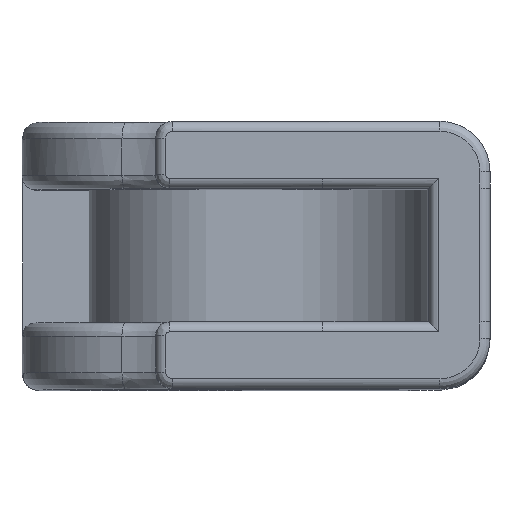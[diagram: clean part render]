
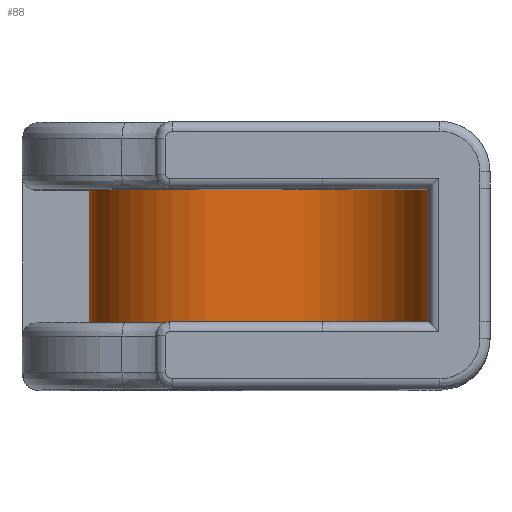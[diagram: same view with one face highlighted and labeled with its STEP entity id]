
A CAD part, top view. The second image highlights one B-rep face of the part: STEP entity #88.
In plain terms, the highlighted free-form (B-spline) face has degree [1, 2] with [2, 11] control points.
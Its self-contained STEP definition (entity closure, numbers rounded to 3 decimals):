
#88=ADVANCED_FACE('',(#198),#1672,.T.);
#198=FACE_OUTER_BOUND('',#313,.T.);
#313=EDGE_LOOP('',(#662,#663,#664,#665));
#662=ORIENTED_EDGE('',*,*,#1013,.T.);
#663=ORIENTED_EDGE('',*,*,#904,.F.);
#664=ORIENTED_EDGE('',*,*,#892,.F.);
#665=ORIENTED_EDGE('',*,*,#891,.T.);
#891=EDGE_CURVE('',#1444,#1507,#1330,.T.);
#892=EDGE_CURVE('',#1444,#1445,#1331,.T.);
#904=EDGE_CURVE('',#1445,#1508,#1337,.T.);
#1013=EDGE_CURVE('',#1507,#1508,#1365,.T.);
#1330=B_SPLINE_CURVE_WITH_KNOTS('',3,(#3684,#3685,#3686,#3687,#3688,#3689,
#3690,#3691,#3692,#3693,#3694,#3695,#3696,#3697,#3698,#3699,#3700,#3701,
#3702,#3703,#3704,#3705,#3706,#3707,#3708,#3709,#3710),.UNSPECIFIED.,.F.,
 .F.,(4,2,3,2,3,3,2,3,2,3,4),(0.,3.952,7.905,11.857,
15.809,21.215,25.17,29.126,33.081,
37.036,44.781),.UNSPECIFIED.);
#1331=B_SPLINE_CURVE_WITH_KNOTS('',1,(#3711,#3712),.UNSPECIFIED.,.F.,.F.,
(2,2),(2.499,12.499),.UNSPECIFIED.);
#1337=B_SPLINE_CURVE_WITH_KNOTS('',3,(#3773,#3774,#3775,#3776,#3777,#3778,
#3779,#3780,#3781,#3782,#3783,#3784,#3785,#3786,#3787,#3788,#3789,#3790,
#3791,#3792,#3793,#3794,#3795,#3796,#3797,#3798,#3799),.UNSPECIFIED.,.F.,
 .F.,(4,2,3,2,3,3,2,3,2,3,4),(0.,3.952,7.905,11.857,
15.809,21.215,25.17,29.126,33.081,
37.036,44.781),.UNSPECIFIED.);
#1365=B_SPLINE_CURVE_WITH_KNOTS('',1,(#4443,#4444),.UNSPECIFIED.,.F.,.F.,
(2,2),(1.25,11.25),.UNSPECIFIED.);
#1444=VERTEX_POINT('',#3471);
#1445=VERTEX_POINT('',#3472);
#1507=VERTEX_POINT('',#3534);
#1508=VERTEX_POINT('',#3535);
#1672=(
BOUNDED_SURFACE()
B_SPLINE_SURFACE(1,2,((#3076,#3077,#3078,#3079,#3080,#3081,#3082,#3083,
#3084,#3085,#3086),(#3087,#3088,#3089,#3090,#3091,#3092,#3093,#3094,#3095,
#3096,#3097)),.UNSPECIFIED.,.F.,.F.,.F.)
B_SPLINE_SURFACE_WITH_KNOTS((2,2),(3,2,2,2,2,3),(0.,14.999),(212.054,
221.085,228.936,236.788,242.189,257.881),
 .UNSPECIFIED.)
GEOMETRIC_REPRESENTATION_ITEM()
RATIONAL_B_SPLINE_SURFACE(((1.,1.,1.,0.924,1.,0.924,
1.,1.,1.,0.707,1.),(1.,1.,1.,0.924,1.,0.924,
1.,1.,1.,0.707,1.)))
REPRESENTATION_ITEM('')
SURFACE()
);
#3076=CARTESIAN_POINT('',(101.565,366.335,-0.046));
#3077=CARTESIAN_POINT('',(101.56,366.335,4.474));
#3078=CARTESIAN_POINT('',(101.555,366.335,8.993));
#3079=CARTESIAN_POINT('',(101.55,366.335,13.139));
#3080=CARTESIAN_POINT('',(104.48,366.334,16.072));
#3081=CARTESIAN_POINT('',(107.409,366.334,19.005));
#3082=CARTESIAN_POINT('',(111.555,366.334,19.005));
#3083=CARTESIAN_POINT('',(114.258,366.334,19.005));
#3084=CARTESIAN_POINT('',(116.961,366.334,19.005));
#3085=CARTESIAN_POINT('',(126.961,366.334,19.005));
#3086=CARTESIAN_POINT('',(126.961,366.334,29.005));
#3087=CARTESIAN_POINT('',(101.565,351.336,-0.046));
#3088=CARTESIAN_POINT('',(101.56,351.336,4.474));
#3089=CARTESIAN_POINT('',(101.555,351.336,8.993));
#3090=CARTESIAN_POINT('',(101.55,351.335,13.139));
#3091=CARTESIAN_POINT('',(104.48,351.335,16.072));
#3092=CARTESIAN_POINT('',(107.409,351.335,19.005));
#3093=CARTESIAN_POINT('',(111.555,351.335,19.005));
#3094=CARTESIAN_POINT('',(114.258,351.335,19.005));
#3095=CARTESIAN_POINT('',(116.961,351.335,19.005));
#3096=CARTESIAN_POINT('',(126.961,351.335,19.005));
#3097=CARTESIAN_POINT('',(126.961,351.335,29.005));
#3471=CARTESIAN_POINT('',(126.961,363.835,29.005));
#3472=CARTESIAN_POINT('',(126.961,353.835,29.005));
#3534=CARTESIAN_POINT('',(101.565,363.835,1.249));
#3535=CARTESIAN_POINT('',(101.565,353.835,1.249));
#3684=CARTESIAN_POINT('',(126.961,363.835,29.005));
#3685=CARTESIAN_POINT('',(126.961,363.835,27.692));
#3686=CARTESIAN_POINT('',(126.702,363.835,26.391));
#3687=CARTESIAN_POINT('',(125.697,363.835,23.965));
#3688=CARTESIAN_POINT('',(124.961,363.835,22.862));
#3689=CARTESIAN_POINT('',(124.032,363.835,21.934));
#3690=CARTESIAN_POINT('',(123.104,363.835,21.005));
#3691=CARTESIAN_POINT('',(122.001,363.835,20.269));
#3692=CARTESIAN_POINT('',(119.575,363.835,19.264));
#3693=CARTESIAN_POINT('',(118.275,363.835,19.005));
#3694=CARTESIAN_POINT('',(116.962,363.835,19.005));
#3695=CARTESIAN_POINT('',(115.16,363.835,19.005));
#3696=CARTESIAN_POINT('',(113.358,363.835,19.005));
#3697=CARTESIAN_POINT('',(111.556,363.835,19.005));
#3698=CARTESIAN_POINT('',(110.241,363.835,19.005));
#3699=CARTESIAN_POINT('',(108.94,363.835,18.746));
#3700=CARTESIAN_POINT('',(106.512,363.835,17.739));
#3701=CARTESIAN_POINT('',(105.409,363.835,17.002));
#3702=CARTESIAN_POINT('',(104.481,363.835,16.072));
#3703=CARTESIAN_POINT('',(103.552,363.835,15.142));
#3704=CARTESIAN_POINT('',(102.816,363.835,14.038));
#3705=CARTESIAN_POINT('',(101.812,363.835,11.609));
#3706=CARTESIAN_POINT('',(101.555,363.835,10.308));
#3707=CARTESIAN_POINT('',(101.556,363.835,8.993));
#3708=CARTESIAN_POINT('',(101.559,363.835,6.412));
#3709=CARTESIAN_POINT('',(101.562,363.835,3.83));
#3710=CARTESIAN_POINT('',(101.565,363.835,1.249));
#3711=CARTESIAN_POINT('',(126.961,363.835,29.005));
#3712=CARTESIAN_POINT('',(126.961,353.835,29.005));
#3773=CARTESIAN_POINT('',(126.961,353.835,29.005));
#3774=CARTESIAN_POINT('',(126.961,353.835,27.692));
#3775=CARTESIAN_POINT('',(126.702,353.835,26.391));
#3776=CARTESIAN_POINT('',(125.697,353.835,23.965));
#3777=CARTESIAN_POINT('',(124.961,353.835,22.862));
#3778=CARTESIAN_POINT('',(124.032,353.835,21.934));
#3779=CARTESIAN_POINT('',(123.104,353.835,21.005));
#3780=CARTESIAN_POINT('',(122.001,353.835,20.269));
#3781=CARTESIAN_POINT('',(119.575,353.835,19.264));
#3782=CARTESIAN_POINT('',(118.275,353.835,19.005));
#3783=CARTESIAN_POINT('',(116.962,353.835,19.005));
#3784=CARTESIAN_POINT('',(115.16,353.835,19.005));
#3785=CARTESIAN_POINT('',(113.358,353.835,19.005));
#3786=CARTESIAN_POINT('',(111.556,353.835,19.005));
#3787=CARTESIAN_POINT('',(110.241,353.835,19.005));
#3788=CARTESIAN_POINT('',(108.94,353.835,18.746));
#3789=CARTESIAN_POINT('',(106.512,353.835,17.739));
#3790=CARTESIAN_POINT('',(105.409,353.835,17.002));
#3791=CARTESIAN_POINT('',(104.481,353.835,16.072));
#3792=CARTESIAN_POINT('',(103.552,353.835,15.142));
#3793=CARTESIAN_POINT('',(102.816,353.835,14.038));
#3794=CARTESIAN_POINT('',(101.812,353.835,11.609));
#3795=CARTESIAN_POINT('',(101.555,353.835,10.308));
#3796=CARTESIAN_POINT('',(101.556,353.835,8.993));
#3797=CARTESIAN_POINT('',(101.559,353.835,6.412));
#3798=CARTESIAN_POINT('',(101.562,353.835,3.83));
#3799=CARTESIAN_POINT('',(101.565,353.835,1.249));
#4443=CARTESIAN_POINT('',(101.565,363.835,1.249));
#4444=CARTESIAN_POINT('',(101.565,353.835,1.249));
